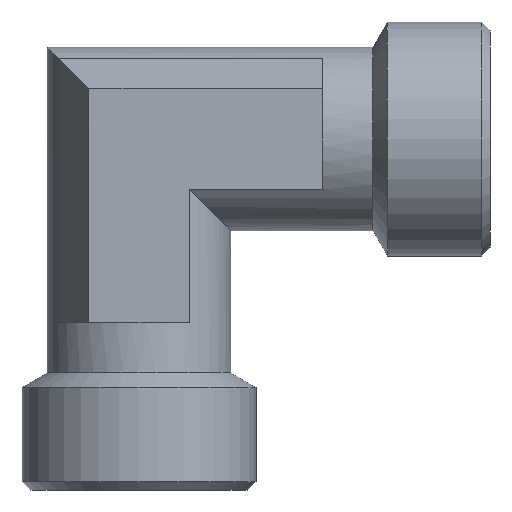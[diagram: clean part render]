
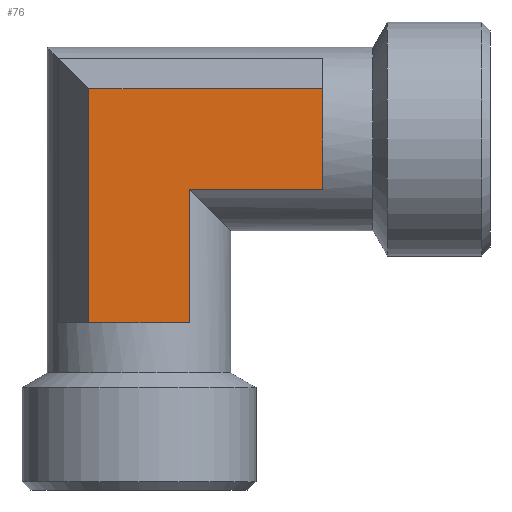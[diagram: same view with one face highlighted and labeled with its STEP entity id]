
A CAD part, front view. The second image highlights one B-rep face of the part: STEP entity #76.
In plain terms, the highlighted planar face has unit normal (0, -1, 0).
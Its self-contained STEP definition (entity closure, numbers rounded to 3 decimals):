
#76 = ADVANCED_FACE( '', ( #180 ), #181, .F. );
#180 = FACE_OUTER_BOUND( '', #319, .T. );
#181 = PLANE( '', #320 );
#319 = EDGE_LOOP( '', ( #479, #480, #481, #482, #483, #484 ) );
#320 = AXIS2_PLACEMENT_3D( '', #485, #486, #487 );
#479 = ORIENTED_EDGE( '', *, *, #739, .F. );
#480 = ORIENTED_EDGE( '', *, *, #740, .F. );
#481 = ORIENTED_EDGE( '', *, *, #741, .F. );
#482 = ORIENTED_EDGE( '', *, *, #742, .F. );
#483 = ORIENTED_EDGE( '', *, *, #743, .F. );
#484 = ORIENTED_EDGE( '', *, *, #744, .F. );
#485 = CARTESIAN_POINT( '', ( 3., -6., -11. ) );
#486 = DIRECTION( '', ( 0., 1., 0. ) );
#487 = DIRECTION( '', ( 0., 0., 1. ) );
#739 = EDGE_CURVE( '', #863, #864, #865, .T. );
#740 = EDGE_CURVE( '', #866, #863, #867, .T. );
#741 = EDGE_CURVE( '', #868, #866, #869, .T. );
#742 = EDGE_CURVE( '', #870, #868, #871, .T. );
#743 = EDGE_CURVE( '', #872, #870, #873, .T. );
#744 = EDGE_CURVE( '', #864, #872, #874, .T. );
#863 = VERTEX_POINT( '', #1019 );
#864 = VERTEX_POINT( '', #1020 );
#865 = LINE( '', #1021, #1022 );
#866 = VERTEX_POINT( '', #1023 );
#867 = LINE( '', #1024, #1025 );
#868 = VERTEX_POINT( '', #1026 );
#869 = LINE( '', #1027, #1028 );
#870 = VERTEX_POINT( '', #1029 );
#871 = LINE( '', #1030, #1031 );
#872 = VERTEX_POINT( '', #1032 );
#873 = LINE( '', #1033, #1034 );
#874 = LINE( '', #1035, #1036 );
#1019 = CARTESIAN_POINT( '', ( 3., -6., -3. ) );
#1020 = CARTESIAN_POINT( '', ( 3., -6., -11. ) );
#1021 = CARTESIAN_POINT( '', ( 3., -6., -3. ) );
#1022 = VECTOR( '', #1192, 1000. );
#1023 = CARTESIAN_POINT( '', ( 11., -6., -3. ) );
#1024 = CARTESIAN_POINT( '', ( 11., -6., -3. ) );
#1025 = VECTOR( '', #1193, 1000. );
#1026 = CARTESIAN_POINT( '', ( 11., -6., 3. ) );
#1027 = CARTESIAN_POINT( '', ( 11., -6., 3. ) );
#1028 = VECTOR( '', #1194, 1000. );
#1029 = CARTESIAN_POINT( '', ( -3., -6., 3. ) );
#1030 = CARTESIAN_POINT( '', ( -3., -6., 3. ) );
#1031 = VECTOR( '', #1195, 1000. );
#1032 = CARTESIAN_POINT( '', ( -3., -6., -11. ) );
#1033 = CARTESIAN_POINT( '', ( -3., -6., -11. ) );
#1034 = VECTOR( '', #1196, 1000. );
#1035 = CARTESIAN_POINT( '', ( 3., -6., -11. ) );
#1036 = VECTOR( '', #1197, 1000. );
#1192 = DIRECTION( '', ( 0., 0., -1. ) );
#1193 = DIRECTION( '', ( -1., 0., 0. ) );
#1194 = DIRECTION( '', ( 0., 0., -1. ) );
#1195 = DIRECTION( '', ( 1., 0., 0. ) );
#1196 = DIRECTION( '', ( 0., 0., 1. ) );
#1197 = DIRECTION( '', ( -1., 0., 0. ) );
